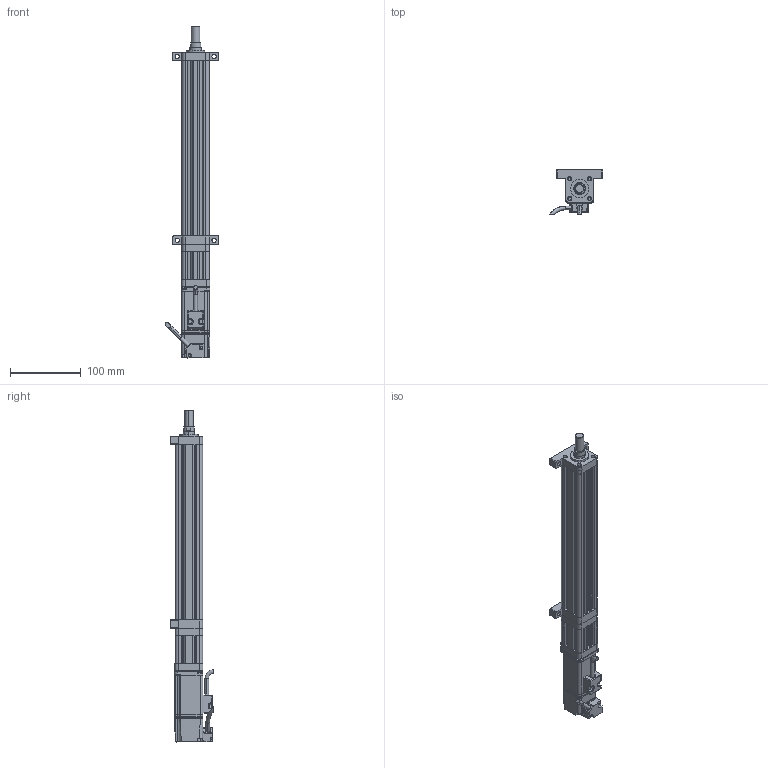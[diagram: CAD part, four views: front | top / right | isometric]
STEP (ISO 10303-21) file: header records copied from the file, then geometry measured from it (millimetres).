
FILE_DESCRIPTION (( 'STEP AP214' ), '1' );
FILE_NAME ('039-S200-D02-A-M2-C1-2.STEP', '2021-03-02T05:34:27', ( '' ), ( '' ), 'SwSTEP 2.0', 'SolidWorks 2018', '' );
FILE_SCHEMA (( 'AUTOMOTIVE_DESIGN' ));
Length unit declared in the file: millimetre
Products named in the file (9): CMC039-GT; CMC039-QDB; CMC039-DJZ; CMC039-DT; ECMA-CX0401ES-40框號系列機種-100W低慣量系列; 039-S200-D02-A-M2-C1-2; CMC039-AZB; CMC039-HDB; CMC039-ZLLJB
Assembly tree (8 placements, depth 2):
  039-S200-D02-A-M2-C1-2
    CMC039-GT
    CMC039-DT
    CMC039-ZLLJB
    CMC039-DJZ
    ECMA-CX0401ES-40框號系列機種-100W低慣量系列
    CMC039-AZB
    CMC039-HDB
    CMC039-QDB
Bounding box: 75.33 x 61.89 x 469.6 mm (x, y, z)
Volume: 484782.5 mm3; surface area: 153683.2 mm2
Topology: 8 solids, 16 shells, 738 faces, 1946 edges, 1225 vertices
Faces by surface type: cylinder 308, plane 307, bspline 84, cone 39
Entity records: 29028 total; most frequent: CARTESIAN_POINT 11402, ORIENTED_EDGE 3826, DIRECTION 3171, EDGE_CURVE 1913, VERTEX_POINT 1225, AXIS2_PLACEMENT_3D 1081, LINE 1009, VECTOR 1009
